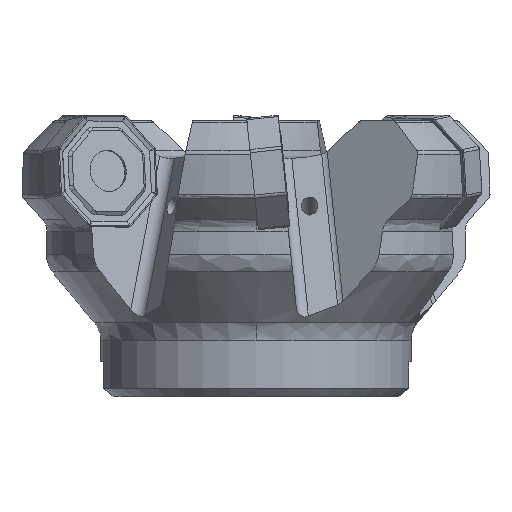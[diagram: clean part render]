
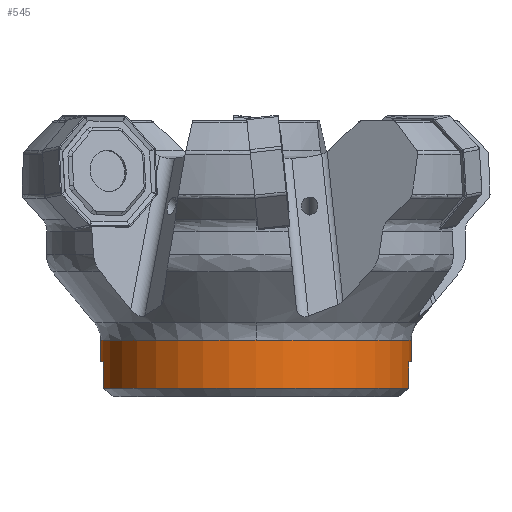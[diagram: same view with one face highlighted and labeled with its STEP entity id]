
A CAD part, front view. The second image highlights one B-rep face of the part: STEP entity #545.
In plain terms, the highlighted cylindrical face has radius 28 mm (diameter 56 mm), a partial arc.
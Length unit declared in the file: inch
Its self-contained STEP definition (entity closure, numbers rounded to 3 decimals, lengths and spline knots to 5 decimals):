
#381 = ORIENTED_EDGE ( 'NONE', *, *, #667, .F. ) ;
#402 = DIRECTION ( 'NONE',  ( 0., 0., -1. ) ) ;
#508 = CARTESIAN_POINT ( 'NONE',  ( -1.08553, -0.19193, 0.24792 ) ) ;
#545 = ADVANCED_FACE ( 'NONE', ( #14363 ), #21155, .T. ) ;
#667 = EDGE_CURVE ( 'NONE', #20515, #16998, #7689, .T. ) ;
#1011 = DIRECTION ( 'NONE',  ( 0., 0., 1. ) ) ;
#1888 = DIRECTION ( 'NONE',  ( 0., 0., -1. ) ) ;
#1955 = CIRCLE ( 'NONE', #17483, 1.10236 ) ;
#1978 = CARTESIAN_POINT ( 'NONE',  ( 0., 0., 0.24792 ) ) ;
#2046 = EDGE_CURVE ( 'NONE', #13242, #9939, #14006, .T. ) ;
#2448 = AXIS2_PLACEMENT_3D ( 'NONE', #15408, #5260, #3318 ) ;
#2530 = LINE ( 'NONE', #11255, #6283 ) ;
#2575 = CARTESIAN_POINT ( 'NONE',  ( 0., -1.10236, 0.40068 ) ) ;
#2629 = DIRECTION ( 'NONE',  ( 1., 0., 0. ) ) ;
#2723 = EDGE_CURVE ( 'NONE', #14051, #13242, #2530, .T. ) ;
#3318 = DIRECTION ( 'NONE',  ( 1., 0., 0. ) ) ;
#3768 = ORIENTED_EDGE ( 'NONE', *, *, #19261, .T. ) ;
#4281 = DIRECTION ( 'NONE',  ( 0., 0., -1. ) ) ;
#4326 = DIRECTION ( 'NONE',  ( 0., 0., 1. ) ) ;
#4531 = CARTESIAN_POINT ( 'NONE',  ( -1.10236, 0., 2. ) ) ;
#4768 = AXIS2_PLACEMENT_3D ( 'NONE', #1978, #15757, #20963 ) ;
#4897 = EDGE_CURVE ( 'NONE', #11480, #16998, #20489, .T. ) ;
#5260 = DIRECTION ( 'NONE',  ( 0., 0., 1. ) ) ;
#5580 = CIRCLE ( 'NONE', #18193, 1.10236 ) ;
#5797 = DIRECTION ( 'NONE',  ( 0., 0., 1. ) ) ;
#6283 = VECTOR ( 'NONE', #402, 39.37008 ) ;
#6800 = CARTESIAN_POINT ( 'NONE',  ( -1.08553, -0.19193, 0.05894 ) ) ;
#6944 = VECTOR ( 'NONE', #20168, 39.37008 ) ;
#7144 = DIRECTION ( 'NONE',  ( 1., 0., 0. ) ) ;
#7168 = VERTEX_POINT ( 'NONE', #12044 ) ;
#7289 = ORIENTED_EDGE ( 'NONE', *, *, #12750, .T. ) ;
#7689 = LINE ( 'NONE', #4531, #9624 ) ;
#7921 = ORIENTED_EDGE ( 'NONE', *, *, #2723, .T. ) ;
#8238 = DIRECTION ( 'NONE',  ( 0., 0., 1. ) ) ;
#9198 = VECTOR ( 'NONE', #8238, 39.37008 ) ;
#9624 = VECTOR ( 'NONE', #1011, 39.37008 ) ;
#9939 = VERTEX_POINT ( 'NONE', #14140 ) ;
#11255 = CARTESIAN_POINT ( 'NONE',  ( -1.08553, -0.19193, 2. ) ) ;
#11480 = VERTEX_POINT ( 'NONE', #2575 ) ;
#11544 = ORIENTED_EDGE ( 'NONE', *, *, #4897, .T. ) ;
#11852 = CARTESIAN_POINT ( 'NONE',  ( 1.08553, -0.19193, 2. ) ) ;
#12044 = CARTESIAN_POINT ( 'NONE',  ( 1.10236, 0., 0.24792 ) ) ;
#12102 = VERTEX_POINT ( 'NONE', #13574 ) ;
#12375 = ORIENTED_EDGE ( 'NONE', *, *, #2046, .T. ) ;
#12750 = EDGE_CURVE ( 'NONE', #12102, #7168, #5580, .T. ) ;
#13174 = ORIENTED_EDGE ( 'NONE', *, *, #19383, .T. ) ;
#13242 = VERTEX_POINT ( 'NONE', #6800 ) ;
#13381 = CARTESIAN_POINT ( 'NONE',  ( 1.10236, 0., 2. ) ) ;
#13497 = LINE ( 'NONE', #13381, #6944 ) ;
#13574 = CARTESIAN_POINT ( 'NONE',  ( 1.08553, -0.19193, 0.24792 ) ) ;
#14006 = CIRCLE ( 'NONE', #2448, 1.10236 ) ;
#14051 = VERTEX_POINT ( 'NONE', #508 ) ;
#14140 = CARTESIAN_POINT ( 'NONE',  ( 1.08553, -0.19193, 0.05894 ) ) ;
#14363 = FACE_OUTER_BOUND ( 'NONE', #17391, .T. ) ;
#14638 = AXIS2_PLACEMENT_3D ( 'NONE', #14788, #4281, #16251 ) ;
#14788 = CARTESIAN_POINT ( 'NONE',  ( 0., 0., 0.40068 ) ) ;
#15063 = CARTESIAN_POINT ( 'NONE',  ( 0., 0., 0.24792 ) ) ;
#15405 = CARTESIAN_POINT ( 'NONE',  ( 1.10236, 0., 0.40068 ) ) ;
#15408 = CARTESIAN_POINT ( 'NONE',  ( 0., 0., 0.05894 ) ) ;
#15757 = DIRECTION ( 'NONE',  ( 0., 0., 1. ) ) ;
#16251 = DIRECTION ( 'NONE',  ( 0., -1., 0. ) ) ;
#16991 = CARTESIAN_POINT ( 'NONE',  ( -1.10236, 0., 0.40068 ) ) ;
#16998 = VERTEX_POINT ( 'NONE', #16991 ) ;
#17036 = CIRCLE ( 'NONE', #4768, 1.10236 ) ;
#17043 = CARTESIAN_POINT ( 'NONE',  ( -1.10236, 0., 0.24792 ) ) ;
#17072 = VERTEX_POINT ( 'NONE', #15405 ) ;
#17391 = EDGE_LOOP ( 'NONE', ( #381, #17492, #7921, #12375, #3768, #7289, #21585, #13174, #11544 ) ) ;
#17483 = AXIS2_PLACEMENT_3D ( 'NONE', #20651, #1888, #17494 ) ;
#17492 = ORIENTED_EDGE ( 'NONE', *, *, #21130, .T. ) ;
#17494 = DIRECTION ( 'NONE',  ( 0., -1., 0. ) ) ;
#18193 = AXIS2_PLACEMENT_3D ( 'NONE', #15063, #4326, #2629 ) ;
#18636 = AXIS2_PLACEMENT_3D ( 'NONE', #21259, #5797, #7144 ) ;
#19261 = EDGE_CURVE ( 'NONE', #9939, #12102, #20323, .T. ) ;
#19383 = EDGE_CURVE ( 'NONE', #17072, #11480, #1955, .T. ) ;
#20168 = DIRECTION ( 'NONE',  ( 0., 0., 1. ) ) ;
#20323 = LINE ( 'NONE', #11852, #9198 ) ;
#20489 = CIRCLE ( 'NONE', #14638, 1.10236 ) ;
#20515 = VERTEX_POINT ( 'NONE', #17043 ) ;
#20651 = CARTESIAN_POINT ( 'NONE',  ( 0., 0., 0.40068 ) ) ;
#20963 = DIRECTION ( 'NONE',  ( 1., 0., 0. ) ) ;
#21130 = EDGE_CURVE ( 'NONE', #20515, #14051, #17036, .T. ) ;
#21155 = CYLINDRICAL_SURFACE ( 'NONE', #18636, 1.10236 ) ;
#21259 = CARTESIAN_POINT ( 'NONE',  ( 0., 0., 2. ) ) ;
#21265 = EDGE_CURVE ( 'NONE', #7168, #17072, #13497, .T. ) ;
#21585 = ORIENTED_EDGE ( 'NONE', *, *, #21265, .T. ) ;
